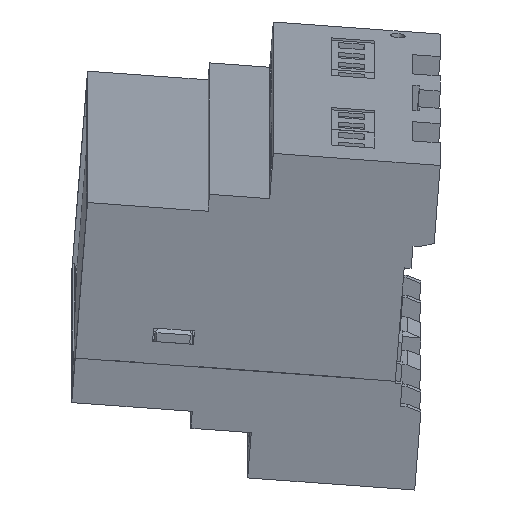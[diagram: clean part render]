
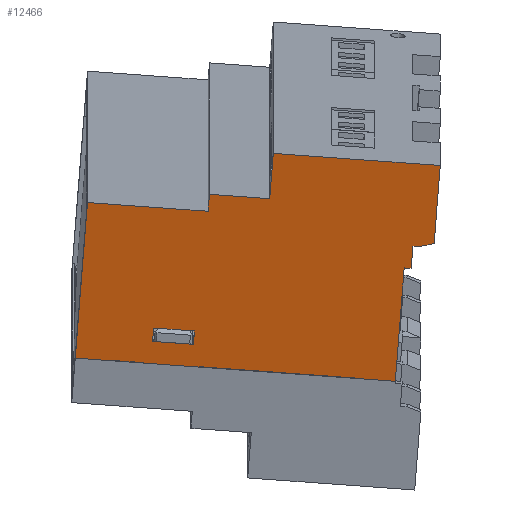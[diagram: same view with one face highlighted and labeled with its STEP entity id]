
A CAD part, left-side view. The second image highlights one B-rep face of the part: STEP entity #12466.
In plain terms, the highlighted planar face has unit normal (-0.958, 0, -0.285).
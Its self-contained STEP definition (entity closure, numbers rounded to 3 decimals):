
#199=FACE_BOUND($,#1225,.T.);
#619=FACE_OUTER_BOUND($,#1224,.T.);
#1224=EDGE_LOOP($,(#10569,#10570,#10571,#10572,#10573,#10574,#10575,#10576,
#10577,#10578,#10579,#10580,#10581));
#1225=EDGE_LOOP($,(#10582,#10583,#10584,#10585));
#2609=LINE($,#19683,#4246);
#2628=LINE($,#19721,#4265);
#2672=LINE($,#19806,#4309);
#2675=LINE($,#19813,#4312);
#2678=LINE($,#19819,#4315);
#2681=LINE($,#19824,#4318);
#2686=LINE($,#19833,#4323);
#2697=LINE($,#19855,#4334);
#2723=LINE($,#19904,#4360);
#2724=LINE($,#19906,#4361);
#2725=LINE($,#19907,#4362);
#2726=LINE($,#19909,#4363);
#2727=LINE($,#19911,#4364);
#2728=LINE($,#19913,#4365);
#2729=LINE($,#19914,#4366);
#2730=LINE($,#19916,#4367);
#2731=LINE($,#19917,#4368);
#4246=VECTOR($,#15974,36.);
#4265=VECTOR($,#15995,69.);
#4309=VECTOR($,#16045,8.8);
#4312=VECTOR($,#16050,3.);
#4315=VECTOR($,#16055,8.8);
#4318=VECTOR($,#16060,3.);
#4323=VECTOR($,#16067,35.);
#4334=VECTOR($,#16084,25.5);
#4360=VECTOR($,#16112,1.5);
#4361=VECTOR($,#16113,3.162);
#4362=VECTOR($,#16114,17.5);
#4363=VECTOR($,#16115,10.18);
#4364=VECTOR($,#16116,13.);
#4365=VECTOR($,#16117,3.82);
#4366=VECTOR($,#16118,26.);
#4367=VECTOR($,#16119,1.5);
#4368=VECTOR($,#16120,5.);
#6024=VERTEX_POINT($,#19680);
#6025=VERTEX_POINT($,#19682);
#6042=VERTEX_POINT($,#19718);
#6043=VERTEX_POINT($,#19720);
#6078=VERTEX_POINT($,#19799);
#6081=VERTEX_POINT($,#19804);
#6084=VERTEX_POINT($,#19812);
#6086=VERTEX_POINT($,#19818);
#6090=VERTEX_POINT($,#19832);
#6098=VERTEX_POINT($,#19853);
#6119=VERTEX_POINT($,#19902);
#6120=VERTEX_POINT($,#19903);
#6121=VERTEX_POINT($,#19905);
#6122=VERTEX_POINT($,#19908);
#6123=VERTEX_POINT($,#19910);
#6124=VERTEX_POINT($,#19912);
#6125=VERTEX_POINT($,#19915);
#7805=EDGE_CURVE($,#6024,#6025,#2609,.T.);
#7824=EDGE_CURVE($,#6043,#6042,#2628,.T.);
#7868=EDGE_CURVE($,#6078,#6081,#2672,.T.);
#7871=EDGE_CURVE($,#6084,#6078,#2675,.T.);
#7874=EDGE_CURVE($,#6086,#6084,#2678,.T.);
#7877=EDGE_CURVE($,#6081,#6086,#2681,.T.);
#7882=EDGE_CURVE($,#6043,#6090,#2686,.T.);
#7893=EDGE_CURVE($,#6042,#6098,#2697,.T.);
#7919=EDGE_CURVE($,#6119,#6120,#2723,.T.);
#7920=EDGE_CURVE($,#6121,#6119,#2724,.T.);
#7921=EDGE_CURVE($,#6025,#6121,#2725,.T.);
#7922=EDGE_CURVE($,#6024,#6122,#2726,.T.);
#7923=EDGE_CURVE($,#6122,#6123,#2727,.T.);
#7924=EDGE_CURVE($,#6123,#6124,#2728,.T.);
#7925=EDGE_CURVE($,#6124,#6090,#2729,.T.);
#7926=EDGE_CURVE($,#6125,#6098,#2730,.T.);
#7927=EDGE_CURVE($,#6120,#6125,#2731,.T.);
#10569=ORIENTED_EDGE($,*,*,#7919,.F.);
#10570=ORIENTED_EDGE($,*,*,#7920,.F.);
#10571=ORIENTED_EDGE($,*,*,#7921,.F.);
#10572=ORIENTED_EDGE($,*,*,#7805,.F.);
#10573=ORIENTED_EDGE($,*,*,#7922,.T.);
#10574=ORIENTED_EDGE($,*,*,#7923,.T.);
#10575=ORIENTED_EDGE($,*,*,#7924,.T.);
#10576=ORIENTED_EDGE($,*,*,#7925,.T.);
#10577=ORIENTED_EDGE($,*,*,#7882,.F.);
#10578=ORIENTED_EDGE($,*,*,#7824,.T.);
#10579=ORIENTED_EDGE($,*,*,#7893,.T.);
#10580=ORIENTED_EDGE($,*,*,#7926,.F.);
#10581=ORIENTED_EDGE($,*,*,#7927,.F.);
#10582=ORIENTED_EDGE($,*,*,#7871,.T.);
#10583=ORIENTED_EDGE($,*,*,#7868,.T.);
#10584=ORIENTED_EDGE($,*,*,#7877,.T.);
#10585=ORIENTED_EDGE($,*,*,#7874,.T.);
#11458=PLANE($,#13301);
#12466=ADVANCED_FACE($,(#619,#199),#11458,.F.);
#13301=AXIS2_PLACEMENT_3D($,#19901,#16110,#16111);
#15974=DIRECTION($,(0.021,-0.997,-0.072));
#15995=DIRECTION($,(0.021,-0.997,-0.072));
#16045=DIRECTION($,(0.021,-0.997,-0.072));
#16050=DIRECTION($,(-0.285,-0.075,0.956));
#16055=DIRECTION($,(-0.021,0.997,0.072));
#16060=DIRECTION($,(0.285,0.075,-0.956));
#16067=DIRECTION($,(-0.285,-0.075,0.956));
#16084=DIRECTION($,(-0.285,-0.075,0.956));
#16110=DIRECTION('center_axis',(0.958,0.,
0.285));
#16111=DIRECTION('ref_axis',(0.285,0.075,-0.956));
#16112=DIRECTION($,(-0.021,0.997,0.072));
#16113=DIRECTION($,(0.07,0.97,-0.234));
#16114=DIRECTION($,(0.285,0.075,-0.956));
#16115=DIRECTION($,(0.285,0.075,-0.956));
#16116=DIRECTION($,(-0.021,0.997,0.072));
#16117=DIRECTION($,(0.285,0.075,-0.956));
#16118=DIRECTION($,(-0.021,0.997,0.072));
#16119=DIRECTION($,(-0.021,0.997,0.072));
#16120=DIRECTION($,(0.285,0.075,-0.956));
#19680=CARTESIAN_POINT('',(-8.774,17.691,33.114));
#19682=CARTESIAN_POINT('',(-8.001,-18.207,30.515));
#19683=CARTESIAN_POINT($,(-9.611,56.58,35.93));
#19718=CARTESIAN_POINT('',(5.814,-8.533,-15.881));
#19720=CARTESIAN_POINT('',(4.332,60.271,-10.899));
#19721=CARTESIAN_POINT($,(4.332,60.271,-10.899));
#19799=CARTESIAN_POINT('',(2.406,43.415,-4.431));
#19804=CARTESIAN_POINT('',(2.595,34.64,-5.066));
#19806=CARTESIAN_POINT($,(2.056,59.668,-3.254));
#19812=CARTESIAN_POINT('',(3.259,43.641,-7.298));
#19813=CARTESIAN_POINT($,(4.682,44.017,-12.076));
#19818=CARTESIAN_POINT('',(3.448,34.866,-7.933));
#19819=CARTESIAN_POINT($,(2.909,59.894,-6.121));
#19824=CARTESIAN_POINT($,(4.871,35.242,-12.712));
#19832=CARTESIAN_POINT('',(-5.627,57.634,22.55));
#19833=CARTESIAN_POINT($,(4.332,60.271,-10.899));
#19853=CARTESIAN_POINT('',(-1.442,-10.454,8.489));
#19855=CARTESIAN_POINT($,(5.814,-8.533,-15.881));
#19901=CARTESIAN_POINT('Origin',(4.332,60.271,-10.899));
#19902=CARTESIAN_POINT('',(-2.801,-13.822,13.051));
#19903=CARTESIAN_POINT('',(-2.833,-12.326,13.159));
#19904=CARTESIAN_POINT($,(-2.833,-12.326,13.159));
#19905=CARTESIAN_POINT('',(-3.021,-16.889,13.79));
#19906=CARTESIAN_POINT($,(-2.801,-13.822,13.051));
#19907=CARTESIAN_POINT($,(-8.001,-18.207,30.515));
#19908=CARTESIAN_POINT('',(-5.877,18.458,23.385));
#19909=CARTESIAN_POINT($,(-8.774,17.691,33.114));
#19910=CARTESIAN_POINT('',(-6.156,31.421,24.324));
#19911=CARTESIAN_POINT($,(-5.877,18.458,23.385));
#19912=CARTESIAN_POINT('',(-5.069,31.708,20.673));
#19913=CARTESIAN_POINT($,(-6.156,31.421,24.324));
#19914=CARTESIAN_POINT($,(-5.069,31.708,20.673));
#19915=CARTESIAN_POINT('',(-1.41,-11.95,8.381));
#19916=CARTESIAN_POINT($,(-1.314,-16.437,8.056));
#19917=CARTESIAN_POINT($,(-1.41,-11.95,8.381));
